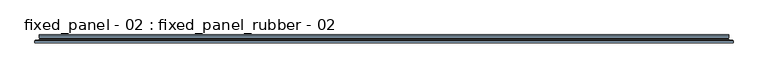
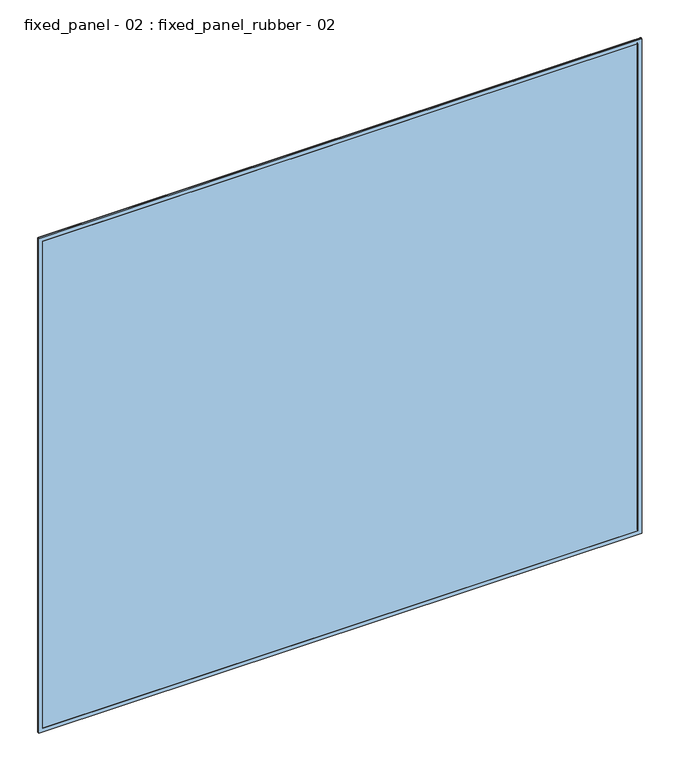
"""IFC4 building model written with IfcOpenShell, lengths in millimetres: window geometry, fixed_panel - 02 : fixed_panel_rubber - 02."""

from ifc_helpers import new_model, si_unit, frame, origin, place, context, project, spatial, polyline, ellipse_curve, outline, extrude, faceted_brep, source, transform, mapped, element, save
from ifc_brep_helpers import plane_surface, cylinder_surface, advanced_brep


def fixed_panel_02_fixed_panel_rubber_02_600722cc(model_context):
    return source(origin(), model_context, "Body", "SolidModel", [
        advanced_brep(
        [(1510.0, -27.9878211, 2589.9842035), (1515.0, -22.9878211, 2594.9842035), (1515.0, -22.9878211, -25.0), (1510.0, -27.9878211, -20.0), (1524.9976779, -22.9878211, -34.9976779), (-1524.9976779, -22.9878211, -34.9976779), (-1524.9976779, -22.9878211, 2604.9818814), (1524.9976779, -22.9878211, 2604.9818814), (-1515.0, -22.9878211, 2594.9842035), (-1515.0, -22.9878211, -25.0), (-1510.0, -27.9878211, -20.0), (1510.0, -34.0, 2589.9842035), (1510.0, -34.0, -20.0), (-1510.0, -34.0, -20.0), (1529.9933535, -34.0, 2609.977557), (-1529.9933535, -34.0, 2609.977557), (-1529.9933535, -34.0, -39.9933535), (1529.9933535, -34.0, -39.9933535), (-1510.0, -34.0, 2589.9842035), (1529.9933535, -27.9834967, 2609.977557), (1529.9933535, -27.9834967, -39.9933535), (-1529.9933535, -27.9834967, -39.9933535), (-1510.0, -27.9878211, 2589.9842035), (-1529.9933535, -27.9834967, 2609.977557)],
        [
            (0, 1, ellipse_curve(frame((1515.0, -27.9878211, 2594.9842035), z_axis=(0.7071067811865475, 0.0, -0.7071067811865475), x_axis=(0.7071067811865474, 0.0, 0.7071067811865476)), 7.0710678, 5.0)),
            (1, 2),
            (2, 3, ellipse_curve(frame((1515.0, -27.9878211, -25.0), z_axis=(0.7071067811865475, 0.0, 0.7071067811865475), x_axis=(-0.7071067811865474, 0.0, 0.7071067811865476)), 7.0710678, 5.0)),
            (3, 0),
            (4, 5),
            (5, 6),
            (6, 7),
            (7, 4),
            (1, 8),
            (8, 9),
            (9, 2),
            (9, 10, ellipse_curve(frame((-1515.0, -27.9878211, -25.0), z_axis=(0.7071067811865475, 0.0, -0.7071067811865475), x_axis=(0.7071067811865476, 0.0, 0.7071067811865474)), 7.0710678, 5.0)),
            (10, 3),
            (11, 0),
            (3, 12),
            (12, 11),
            (10, 13),
            (13, 12),
            (14, 15),
            (15, 16),
            (16, 17),
            (17, 14),
            (13, 18),
            (18, 11),
            (19, 14),
            (17, 20),
            (20, 19),
            (16, 21),
            (21, 20),
            (7, 19, ellipse_curve(frame((1524.9976779, -27.9834967, 2604.9818814), z_axis=(0.7071067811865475, 0.0, -0.7071067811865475), x_axis=(0.7071067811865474, 0.0, 0.7071067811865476)), 7.0649521, 4.9956756)),
            (20, 4, ellipse_curve(frame((1524.9976779, -27.9834967, -34.9976779), z_axis=(0.7071067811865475, 0.0, 0.7071067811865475), x_axis=(-0.7071067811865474, 0.0, 0.7071067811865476)), 7.0649521, 4.9956756)),
            (21, 5, ellipse_curve(frame((-1524.9976779, -27.9834967, -34.9976779), z_axis=(0.7071067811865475, 0.0, -0.7071067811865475), x_axis=(0.7071067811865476, 0.0, 0.7071067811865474)), 7.0649521, 4.9956756)),
            (8, 22, ellipse_curve(frame((-1515.0, -27.9878211, 2594.9842035), z_axis=(-0.7071067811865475, 0.0, -0.7071067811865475), x_axis=(0.7071067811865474, 0.0, -0.7071067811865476)), 7.0710678, 5.0)),
            (22, 10),
            (22, 18),
            (15, 23),
            (23, 21),
            (23, 6, ellipse_curve(frame((-1524.9976779, -27.9834967, 2604.9818814), z_axis=(-0.7071067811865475, 0.0, -0.7071067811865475), x_axis=(0.7071067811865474, 0.0, -0.7071067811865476)), 7.0649521, 4.9956756)),
            (0, 22),
            (19, 23),
        ],
        [
            cylinder_surface(frame((1515.0, -27.9878211, 2589.9842035), z_axis=(0.0, 0.0, 1.0), x_axis=(1.0, 0.0, 0.0)), 5.0),
            plane_surface(frame((-1524.9976779, -22.9878211, 2604.9818814), z_axis=(0.0, 1.0, 0.0), x_axis=(1.0, 0.0, 0.0))),
            cylinder_surface(frame((1510.0, -27.9878211, -25.0), z_axis=(1.0, 0.0, 0.0), x_axis=(0.0, 0.0, -1.0)), 5.0),
            plane_surface(frame((1510.0, -27.9878211, 2589.9842035), z_axis=(-1.0, 0.0, 0.0), x_axis=(0.0, 0.0, -1.0))),
            plane_surface(frame((1510.0, -27.9878211, -20.0), z_axis=(0.0, 0.0, 1.0), x_axis=(-1.0, 0.0, 0.0))),
            plane_surface(frame((-1510.0, -34.0, 2589.9842035), z_axis=(0.0, -1.0, 0.0), x_axis=(1.0, 0.0, 0.0))),
            plane_surface(frame((1529.9933535, -34.0, 2609.977557), z_axis=(1.0, 0.0, 0.0), x_axis=(0.0, 0.0, -1.0))),
            plane_surface(frame((1529.9933535, -34.0, -39.9933535), z_axis=(0.0, 0.0, -1.0), x_axis=(-1.0, 0.0, 0.0))),
            cylinder_surface(frame((1524.9976779, -27.9834967, 2589.9842035), z_axis=(0.0, 0.0, 1.0), x_axis=(1.0, 0.0, 0.0)), 4.9956756),
            cylinder_surface(frame((1510.0, -27.9834967, -34.9976779), z_axis=(1.0, 0.0, 0.0), x_axis=(0.0, 0.0, -1.0)), 4.9956756),
            cylinder_surface(frame((-1515.0, -27.9878211, -20.0), z_axis=(0.0, 0.0, -1.0), x_axis=(-1.0, 0.0, 0.0)), 5.0),
            plane_surface(frame((-1510.0, -27.9878211, -20.0), z_axis=(1.0, 0.0, 0.0), x_axis=(0.0, 0.0, 1.0))),
            plane_surface(frame((-1529.9933535, -34.0, -39.9933535), z_axis=(-1.0, 0.0, 0.0), x_axis=(0.0, 0.0, 1.0))),
            cylinder_surface(frame((-1524.9976779, -27.9834967, -20.0), z_axis=(0.0, 0.0, -1.0), x_axis=(-1.0, 0.0, 0.0)), 4.9956756),
            cylinder_surface(frame((-1510.0, -27.9878211, 2594.9842035), z_axis=(-1.0, 0.0, 0.0), x_axis=(0.0, 0.0, 1.0)), 5.0),
            plane_surface(frame((-1510.0, -27.9878211, 2589.9842035), z_axis=(0.0, 0.0, -1.0), x_axis=(1.0, 0.0, 0.0))),
            plane_surface(frame((-1529.9933535, -34.0, 2609.977557), z_axis=(0.0, 0.0, 1.0), x_axis=(1.0, 0.0, 0.0))),
            cylinder_surface(frame((-1510.0, -27.9834967, 2604.9818814), z_axis=(-1.0, 0.0, 0.0), x_axis=(0.0, 0.0, 1.0)), 4.9956756),
        ],
        [
            (0, [[1, 2, 3, 4]]),
            (1, [[5, 6, 7, 8], [9, 10, 11, -2]]),
            (2, [[-3, -11, 12, 13]]),
            (3, [[14, -4, 15, 16]]),
            (4, [[-15, -13, 17, 18]]),
            (5, [[19, 20, 21, 22], [-18, 23, 24, -16]]),
            (6, [[25, -22, 26, 27]]),
            (7, [[-26, -21, 28, 29]]),
            (8, [[30, -27, 31, -8]]),
            (9, [[-31, -29, 32, -5]]),
            (10, [[-12, -10, 33, 34]]),
            (11, [[-17, -34, 35, -23]]),
            (12, [[-28, -20, 36, 37]]),
            (13, [[-32, -37, 38, -6]]),
            (14, [[-33, -9, -1, 39]]),
            (15, [[-35, -39, -14, -24]]),
            (16, [[-36, -19, -25, 40]]),
            (17, [[-38, -40, -30, -7]]),
        ],
    ),
        faceted_brep([(1484.0, -26.0, 2563.9842035), (1484.0, -6.0, 2563.9842035), (1484.0, -6.0, 6.0), (1484.0, -26.0, 6.0), (1510.0, -6.0, -20.0), (-1510.0, -6.0, -20.0), (-1510.0, -6.0, 2589.9842035), (1510.0, -6.0, 2589.9842035), (-1484.0, -6.0, 2563.9842035), (-1484.0, -6.0, 6.0), (-1484.0, -26.0, 6.0), (1510.0, -26.0, 2589.9842035), (-1510.0, -26.0, 2589.9842035), (-1510.0, -26.0, -20.0), (1510.0, -26.0, -20.0), (-1484.0, -26.0, 2563.9842035), (1510.0, -18.8, 2589.9842035), (1510.0, -18.8, -20.0), (-1510.0, -18.8, -20.0), (-1510.0, -18.8, 2589.9842035), (1499.0, -18.8, 2578.9842035), (-1499.0, -18.8, 2578.9842035), (-1499.0, -18.8, -9.0), (1499.0, -18.8, -9.0), (1499.0, -13.2, 2578.9842035), (1499.0, -13.2, -9.0), (-1499.0, -13.2, -9.0), (1510.0, -13.2, 2589.9842035), (-1510.0, -13.2, 2589.9842035), (-1510.0, -13.2, -20.0), (1510.0, -13.2, -20.0), (-1499.0, -13.2, 2578.9842035)], [[[0, 1, 2, 3]], [[4, 5, 6, 7], [1, 8, 9, 2]], [[3, 2, 9, 10]], [[11, 12, 13, 14], [3, 10, 15, 0]], [[16, 11, 14, 17]], [[17, 14, 13, 18]], [[17, 18, 19, 16], [20, 21, 22, 23]], [[24, 20, 23, 25]], [[25, 23, 22, 26]], [[27, 28, 29, 30], [25, 26, 31, 24]], [[7, 27, 30, 4]], [[4, 30, 29, 5]], [[10, 9, 8, 15]], [[18, 13, 12, 19]], [[26, 22, 21, 31]], [[5, 29, 28, 6]], [[15, 8, 1, 0]], [[19, 12, 11, 16]], [[31, 21, 20, 24]], [[6, 28, 27, 7]]]),
        extrude(outline(polyline([(1510.0, -34.0), (-1510.0, -34.0), (-1510.0, -26.0), (1510.0, -26.0), (1510.0, -34.0)])), frame((0.0, 0.0, -20.0), z_axis=(0.0, 0.0, 1.0), x_axis=(1.0, 0.0, 0.0)), (0.0, 0.0, 1.0), 2609.9842035),
        extrude(outline(polyline([(1510.0, -6.0), (-1510.0, -6.0), (-1510.0, 0.0), (1510.0, 0.0), (1510.0, -6.0)])), frame((0.0, 0.0, -20.0), z_axis=(0.0, 0.0, 1.0), x_axis=(1.0, 0.0, 0.0)), (0.0, 0.0, 1.0), 2609.9842035),
    ])


if __name__ == "__main__":
    model = new_model("IFC4")
    model_context = context("Model", 3, world=origin())
    ifc_project = project(units=[si_unit("LENGTHUNIT", "METRE", prefix="MILLI")], contexts=[model_context])
    site = spatial("IfcSite", under=ifc_project)
    building = spatial("IfcBuilding", under=site)
    placement = place(None, origin())
    fixed_panel_02_fixed_panel_rubber_02_shape = fixed_panel_02_fixed_panel_rubber_02_600722cc(model_context)
    element("IfcWindow", 1, ObjectType="fixed_panel - 02 : fixed_panel_rubber - 02", at=placement, inside=building, context=model_context, shape_type="MappedRepresentation", body=[
        mapped(fixed_panel_02_fixed_panel_rubber_02_shape, transform((0.0, 0.0, 0.0), x_axis=(1.0, 0.0, 0.0), y_axis=(0.0, 1.0, 0.0), z_axis=(0.0, 0.0, 1.0))),
    ])
    save(model, "model.ifc")
